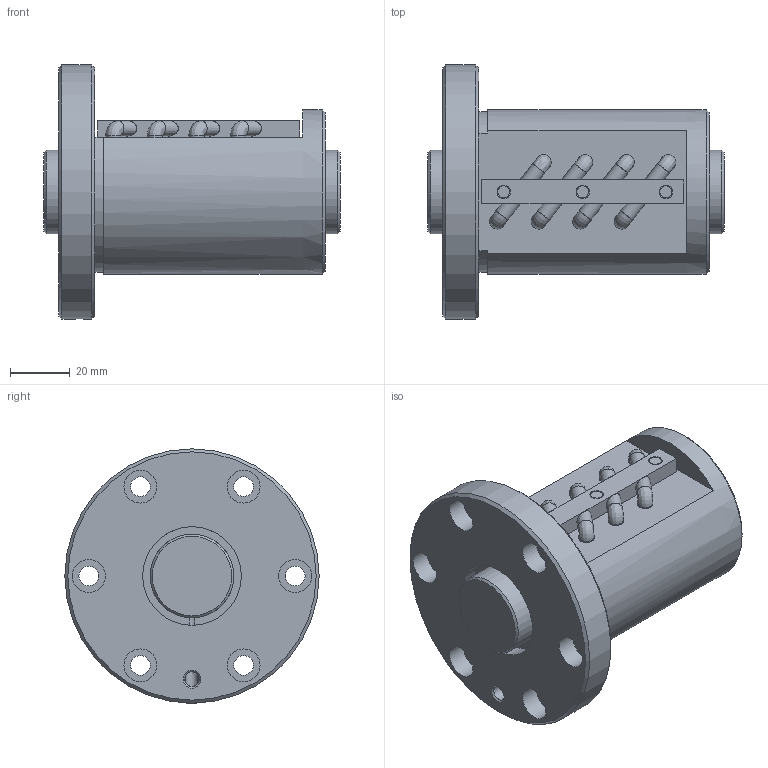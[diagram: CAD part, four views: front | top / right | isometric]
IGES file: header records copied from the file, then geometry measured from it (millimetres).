
Start section: Data from Parasolid IGES Translator 26.0.171, Copyright(c) 2006 Siemens PLM Software. All Rights Reserved.
Global section: file name: BIF2805V-10RRG0+99LC0_000.igs; native system: By Siemens PLM Incorporated; preprocessor: XPlus GENERIC/IGES 26.0.171; author: Noname; organization: Noname; date: 20240715.081804; units: millimetre
Bounding box: 99 x 85 x 85 mm (x, y, z)
Surface area: 48269.7 mm2 (no closed solid volume)
Topology: 0 solids, 0 shells, 130 faces, 626 edges, 584 vertices
Faces by surface type: revolution 77, extrusion 53
